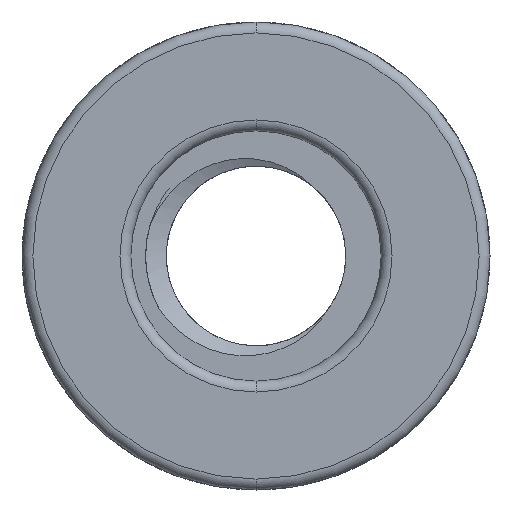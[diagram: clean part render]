
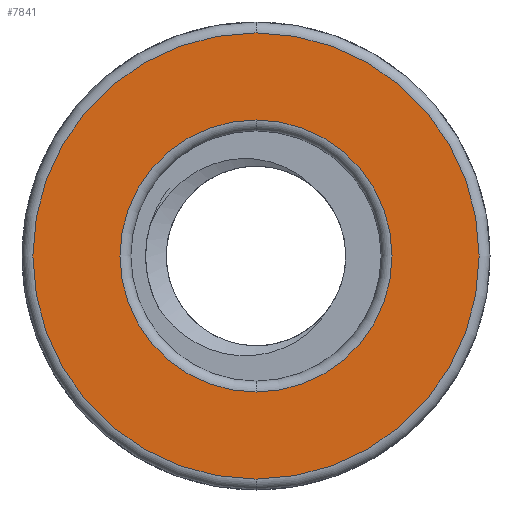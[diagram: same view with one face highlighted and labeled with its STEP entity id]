
A CAD part, front view. The second image highlights one B-rep face of the part: STEP entity #7841.
In plain terms, the highlighted planar face has unit normal (0, -1, 0).
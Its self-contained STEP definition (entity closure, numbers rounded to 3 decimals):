
#1440 = AXIS2_PLACEMENT_3D ( 'NONE', #30935, #13714, #2065 ) ;
#1696 = FACE_OUTER_BOUND ( 'NONE', #27705, .T. ) ;
#1786 = VERTEX_POINT ( 'NONE', #9210 ) ;
#2065 = DIRECTION ( 'NONE',  ( 0., 0., -1. ) ) ;
#4891 = FACE_BOUND ( 'NONE', #17492, .T. ) ;
#5757 = VERTEX_POINT ( 'NONE', #20366 ) ;
#6410 = DIRECTION ( 'NONE',  ( 0., 0., -1. ) ) ;
#6797 = CARTESIAN_POINT ( 'NONE',  ( 0., 0., -4.1 ) ) ;
#7841 = ADVANCED_FACE ( 'NONE', ( #4891, #1696 ), #13150, .T. ) ;
#8669 = VERTEX_POINT ( 'NONE', #28737 ) ;
#9210 = CARTESIAN_POINT ( 'NONE',  ( 0., 0., 4.1 ) ) ;
#9879 = VERTEX_POINT ( 'NONE', #6797 ) ;
#10789 = CARTESIAN_POINT ( 'NONE',  ( 0., 0., 0. ) ) ;
#11662 = DIRECTION ( 'NONE',  ( 0., 0., -1. ) ) ;
#12445 = CIRCLE ( 'NONE', #23220, 4.1 ) ;
#13150 = PLANE ( 'NONE',  #1440 ) ;
#13714 = DIRECTION ( 'NONE',  ( 0., -1., 0. ) ) ;
#14516 = CIRCLE ( 'NONE', #36644, 2.5 ) ;
#14553 = DIRECTION ( 'NONE',  ( 0., 1., 0. ) ) ;
#14821 = EDGE_CURVE ( 'NONE', #5757, #8669, #14516, .T. ) ;
#15635 = AXIS2_PLACEMENT_3D ( 'NONE', #28417, #14553, #22416 ) ;
#16108 = ORIENTED_EDGE ( 'NONE', *, *, #22364, .T. ) ;
#16430 = ORIENTED_EDGE ( 'NONE', *, *, #32790, .T. ) ;
#17492 = EDGE_LOOP ( 'NONE', ( #16430, #36434 ) ) ;
#20366 = CARTESIAN_POINT ( 'NONE',  ( 0., 0., 2.5 ) ) ;
#20815 = EDGE_CURVE ( 'NONE', #1786, #9879, #12445, .T. ) ;
#22364 = EDGE_CURVE ( 'NONE', #9879, #1786, #24384, .T. ) ;
#22416 = DIRECTION ( 'NONE',  ( 0., 0., -1. ) ) ;
#23220 = AXIS2_PLACEMENT_3D ( 'NONE', #10789, #28407, #24836 ) ;
#24384 = CIRCLE ( 'NONE', #31604, 4.1 ) ;
#24836 = DIRECTION ( 'NONE',  ( 0., 0., -1. ) ) ;
#26079 = CARTESIAN_POINT ( 'NONE',  ( 0., 0., 0. ) ) ;
#27705 = EDGE_LOOP ( 'NONE', ( #16108, #33364 ) ) ;
#28407 = DIRECTION ( 'NONE',  ( 0., -1., 0. ) ) ;
#28417 = CARTESIAN_POINT ( 'NONE',  ( 0., 0., 0. ) ) ;
#28737 = CARTESIAN_POINT ( 'NONE',  ( 0., 0., -2.5 ) ) ;
#30935 = CARTESIAN_POINT ( 'NONE',  ( 0., 0., -4.3 ) ) ;
#31541 = DIRECTION ( 'NONE',  ( 0., -1., 0. ) ) ;
#31604 = AXIS2_PLACEMENT_3D ( 'NONE', #26079, #31541, #11662 ) ;
#32790 = EDGE_CURVE ( 'NONE', #8669, #5757, #34190, .T. ) ;
#33364 = ORIENTED_EDGE ( 'NONE', *, *, #20815, .T. ) ;
#34190 = CIRCLE ( 'NONE', #15635, 2.5 ) ;
#34718 = CARTESIAN_POINT ( 'NONE',  ( 0., 0., 0. ) ) ;
#35454 = DIRECTION ( 'NONE',  ( 0., 1., 0. ) ) ;
#36434 = ORIENTED_EDGE ( 'NONE', *, *, #14821, .T. ) ;
#36644 = AXIS2_PLACEMENT_3D ( 'NONE', #34718, #35454, #6410 ) ;
